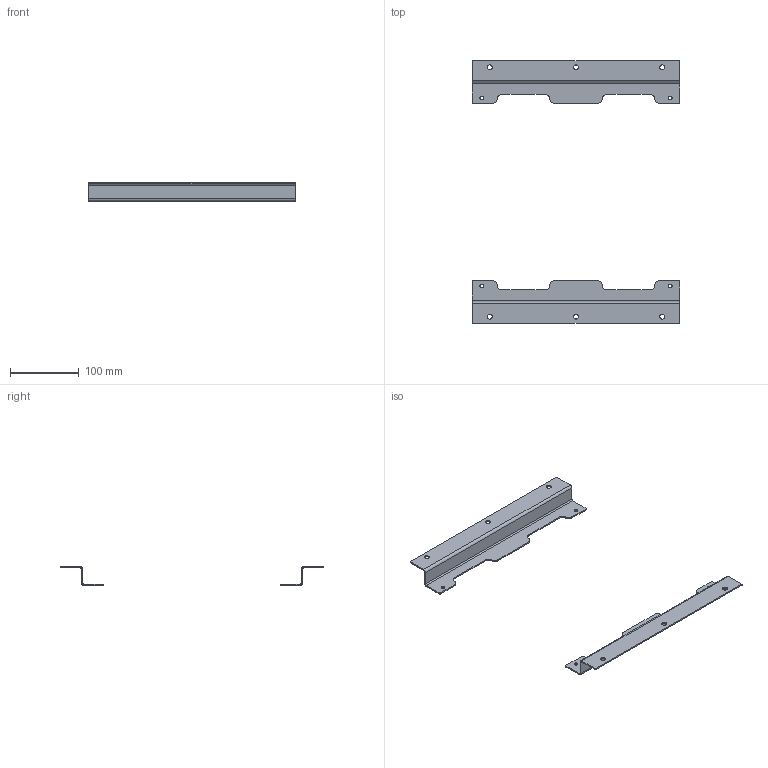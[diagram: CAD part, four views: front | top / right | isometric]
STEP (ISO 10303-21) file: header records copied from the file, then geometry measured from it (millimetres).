
FILE_DESCRIPTION((''),'2;1');
FILE_NAME('MODEL-176_ASM','2012-08-09T',('dougp'),('SAGINAW CONTROL & ENGINEERING'),'PRO/ENGINEER BY PARAMETRIC TECHNOLOGY CORPORATION, 2012070','PRO/ENGINEER BY PARAMETRIC TECHNOLOGY CORPORATION, 2012070','');
FILE_SCHEMA(('AUTOMOTIVE_DESIGN { 1 0 10303 214 1 1 1 1 }'));
Length unit declared in the file: inch
Products named in the file (2): MODEL-176-SIDE; MODEL-176_ASM
Assembly tree (2 placements, depth 2):
  MODEL-176_ASM
    MODEL-176-SIDE  x2
Bounding box: 300.99 x 381 x 27.3 mm (x, y, z)
Volume: 89042.6 mm3; surface area: 96915.9 mm2
Topology: 2 solids, 2 shells, 108 faces, 280 edges, 176 vertices
Faces by surface type: plane 56, cylinder 52
Entity records: 2218 total; most frequent: DIRECTION 308, CARTESIAN_POINT 291, ORIENTED_EDGE 280, PRESENTATION_STYLE_ASSIGNMENT 141, STYLED_ITEM 141, CURVE_STYLE 140, EDGE_CURVE 140, AXIS2_PLACEMENT_3D 110
